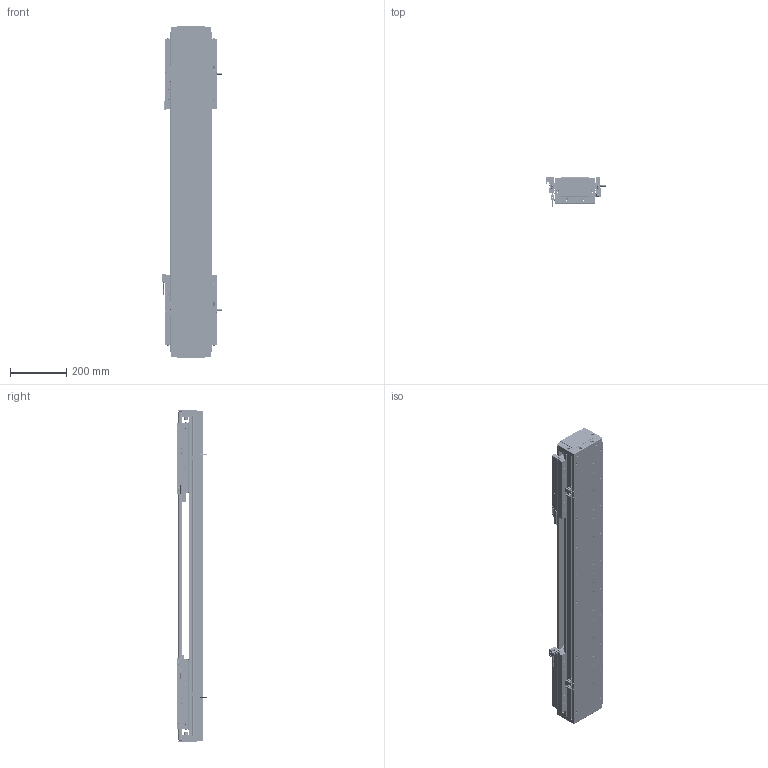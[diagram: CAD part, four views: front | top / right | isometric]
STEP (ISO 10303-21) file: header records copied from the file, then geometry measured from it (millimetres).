
FILE_DESCRIPTION (( 'STEP AP203' ), '1' );
FILE_NAME ('DA-C145-2-C3-T560-C010-0.2 眻盄萇儂.STEP', '2025-08-13T10:16:13', ( '' ), ( '' ), 'SwSTEP 2.0', 'SolidWorks 2019', '' );
FILE_SCHEMA (( 'CONFIG_CONTROL_DESIGN' ));
Length unit declared in the file: millimetre
Products named in the file (35): CU145-W-00 珨极趙賑雄怢啣-1; IU-CU145-L-00 菁釱(L1140); 复件 DA145-C3-DK-00 挡块^CU145-W 滚珠滑台; 葩璃 DA145-C3-DP-B-00 菜えB^CU145-W 幗紩賑怢; 葩璃 DA95-HXJ-00 遣喳砎蝶^DA-C145-2-C3-T-C010-0.2; 葩璃 XD-U-02L 棠掑喜^DA-C145-2-C3-T-C010-0.2; CU145-W 幗紩賑怢; CU145-W 幗紩賑怢-1; DKW-KGZ-ZJ-00 中间光电开关支架; 复件 DA145-C3-YB-A-00 压板A^CU145-W 滚珠滑台; 葩璃 CKM03-W060-C1C2-TP-0.2^DA-C145-2-C3-T-C010-0.2; DKW-GYP-ZJ-00 笢潔嫖萇覜茼え; 葩璃 DA145-C3-DP-A-00 菜えA^CU145-W 幗紩賑怢; 葩璃 鞠褒情蹟譫 M3^DA-C145-2-C3-T-C010-0.2; 葩璃 CKMA01-W060-TRL^DA-C145-2-C3-T-C010-0.2; 复件 半圆头内六角螺钉 M3×6^CU145-W 滚珠滑台; DA-C145-2-C3-T560-C010-0.2 眻盄萇儂; 复件 DA95-HK-GT-00 滑块钢轨^CU145-W-00 一体化滑动台板; 复件 DA95-MFP-01 密封片^CU145-W 滚珠滑台; 葩璃 DMA-010-0.2 黍杅芛^DA-C145-2-C3-T-C010-0.2; 葩璃 DA145-T-003-00 裔啣^DA-C145-2-C3-T-C010-0.2; 复件 DA145-C3-YB-B-00 压板B^CU145-W 滚珠滑台; 葩璃 PM-T45^DA-C145-2-C3-T-C010-0.2; CU145-W-00 珨极趙賑雄怢啣; DKW168-HXJ-ZJ-00 笢潔滅袉砎蝶; 葩璃 PM-Y65^DA-C145-2-C3-T-C010-0.2; 复件 内六角平端紧定螺钉 GB.T77-2000 M5×10^CU145-W 滚珠滑台; 复件 纯铜油杯 6x6mm^CU145-W 滚珠滑台; 葩璃 DA95-GT-T-00^IU-CU145-L 菁釱絳寢; TAY01-M8; 葩璃 DA145-DG-H-N-00 傷裔^DA-C145-2-C3-T-C010-0.2; 复件 DA95-DB-00  挡板^CU145-W 滚珠滑台; 66245-CU145-HT-W-00 賑雄怢啣(3D芞祧)(00); IU-CU145-L 菁釱絳寢; 复件 DA145-GYP-00 光电感应片^DA-C145-2-C3-T-C010-0.2
Assembly tree (175 placements, depth 4):
  DA-C145-2-C3-T560-C010-0.2 眻盄萇儂
    IU-CU145-L 菁釱絳寢
      IU-CU145-L-00 菁釱(L1140)
      葩璃 DA95-GT-T-00^IU-CU145-L 菁釱絳寢  x4
    CU145-W 幗紩賑怢
      CU145-W-00 珨极趙賑雄怢啣
        66245-CU145-HT-W-00 賑雄怢啣(3D芞祧)(00)
        复件 DA95-HK-GT-00 滑块钢轨^CU145-W-00 一体化滑动台板  x8
      复件 DA95-MFP-01 密封片^CU145-W 滚珠滑台  x8
      复件 DA95-DB-00  挡板^CU145-W 滚珠滑台  x8
      复件 内六角平端紧定螺钉 GB.T77-2000 M5×10^CU145-W 滚珠滑台  x4
      复件 纯铜油杯 6x6mm^CU145-W 滚珠滑台  x4
      复件 半圆头内六角螺钉 M3×6^CU145-W 滚珠滑台  x16
      复件 DA145-C3-DK-00 挡块^CU145-W 滚珠滑台  x4
      葩璃 DA145-C3-DP-B-00 菜えB^CU145-W 幗紩賑怢  x2
      复件 DA145-C3-YB-B-00 压板B^CU145-W 滚珠滑台  x2
      葩璃 DA145-C3-DP-A-00 菜えA^CU145-W 幗紩賑怢  x3
      复件 DA145-C3-YB-A-00 压板A^CU145-W 滚珠滑台  x3
      TAY01-M8  x4
    CU145-W 幗紩賑怢-1
      CU145-W-00 珨极趙賑雄怢啣-1
        66245-CU145-HT-W-00 賑雄怢啣(3D芞祧)(00)
        复件 DA95-HK-GT-00 滑块钢轨^CU145-W-00 一体化滑动台板  x8
      复件 DA95-MFP-01 密封片^CU145-W 滚珠滑台  x8
      复件 DA95-DB-00  挡板^CU145-W 滚珠滑台  x8
      复件 内六角平端紧定螺钉 GB.T77-2000 M5×10^CU145-W 滚珠滑台  x4
      复件 纯铜油杯 6x6mm^CU145-W 滚珠滑台  x4
      复件 半圆头内六角螺钉 M3×6^CU145-W 滚珠滑台  x16
      复件 DA145-C3-DK-00 挡块^CU145-W 滚珠滑台  x4
      葩璃 DA145-C3-DP-B-00 菜えB^CU145-W 幗紩賑怢  x2
      复件 DA145-C3-YB-B-00 压板B^CU145-W 滚珠滑台  x2
      葩璃 DA145-C3-DP-A-00 菜えA^CU145-W 幗紩賑怢  x3
      复件 DA145-C3-YB-A-00 压板A^CU145-W 滚珠滑台  x3
      TAY01-M8  x4
    葩璃 CKMA01-W060-TRL^DA-C145-2-C3-T-C010-0.2
    葩璃 PM-T45^DA-C145-2-C3-T-C010-0.2  x4
    葩璃 XD-U-02L 棠掑喜^DA-C145-2-C3-T-C010-0.2
    葩璃 DA145-DG-H-N-00 傷裔^DA-C145-2-C3-T-C010-0.2  x2
    葩璃 DA145-T-003-00 裔啣^DA-C145-2-C3-T-C010-0.2
    葩璃 DA95-HXJ-00 遣喳砎蝶^DA-C145-2-C3-T-C010-0.2  x4
    葩璃 CKM03-W060-C1C2-TP-0.2^DA-C145-2-C3-T-C010-0.2  x2
    葩璃 DMA-010-0.2 黍杅芛^DA-C145-2-C3-T-C010-0.2  x2
    复件 DA145-GYP-00 光电感应片^DA-C145-2-C3-T-C010-0.2  x2
    DKW-GYP-ZJ-00 笢潔嫖萇覜茼え
    DKW-KGZ-ZJ-00 中间光电开关支架
    葩璃 PM-Y65^DA-C145-2-C3-T-C010-0.2
    葩璃 鞠褒情蹟譫 M3^DA-C145-2-C3-T-C010-0.2  x8
    DKW168-HXJ-ZJ-00 笢潔滅袉砎蝶
Bounding box: 213.7 x 108.45 x 1180 mm (x, y, z)
Volume: 9436709 mm3; surface area: 2613972.1 mm2
Topology: 171 solids, 235 shells, 6924 faces, 17962 edges, 11007 vertices
Faces by surface type: plane 2932, cylinder 2704, cone 1120, torus 152, sphere 8, bspline 8
Entity records: 106833 total; most frequent: CARTESIAN_POINT 26528, DIRECTION 15217, ORIENTED_EDGE 15088, EDGE_CURVE 7544, AXIS2_PLACEMENT_3D 5521, VERTEX_POINT 4856, LINE 4175, VECTOR 4175
